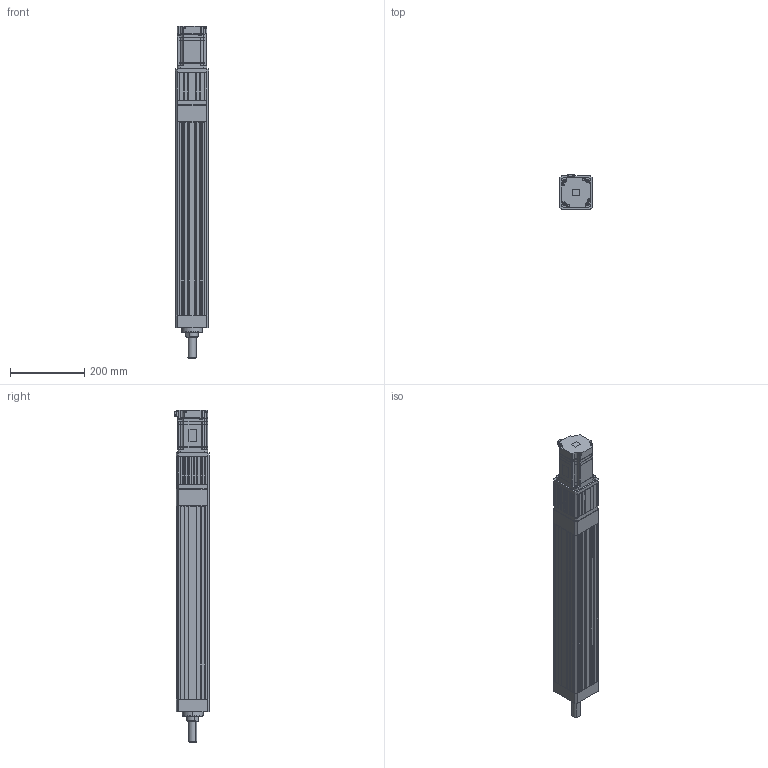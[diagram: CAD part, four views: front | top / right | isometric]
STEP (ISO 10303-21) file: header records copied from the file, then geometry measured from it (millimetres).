
FILE_DESCRIPTION (( 'STEP AP203' ), '1' );
FILE_NAME ('ANS090R-S400-05(10)(20)-W75-M.STEP', '2019-03-02T11:00:49', ( 'user' ), ( '' ), 'SwSTEP 2.0', 'SolidWorks 2013', '' );
FILE_SCHEMA (( 'CONFIG_CONTROL_DESIGN' ));
Length unit declared in the file: millimetre
Products named in the file (4): SGMJV_08A_A21; ANS090 ROD ST400-M; ANS090R-S400-05(10)(20)-W75-M; ANS090R S400 VER2
Assembly tree (3 placements, depth 2):
  ANS090R-S400-05(10)(20)-W75-M
    ANS090R S400 VER2
    SGMJV_08A_A21
    ANS090 ROD ST400-M
Bounding box: 90 x 93.8 x 896.1 mm (x, y, z)
Volume: 3714777.5 mm3; surface area: 650085.4 mm2
Topology: 3 solids, 3 shells, 1438 faces, 3878 edges, 2504 vertices
Faces by surface type: plane 930, cylinder 404, cone 100, bspline 4
Entity records: 45220 total; most frequent: CARTESIAN_POINT 8496, ORIENTED_EDGE 7708, DIRECTION 7414, EDGE_CURVE 3854, LINE 2890, VECTOR 2890, VERTEX_POINT 2504, AXIS2_PLACEMENT_3D 2262
